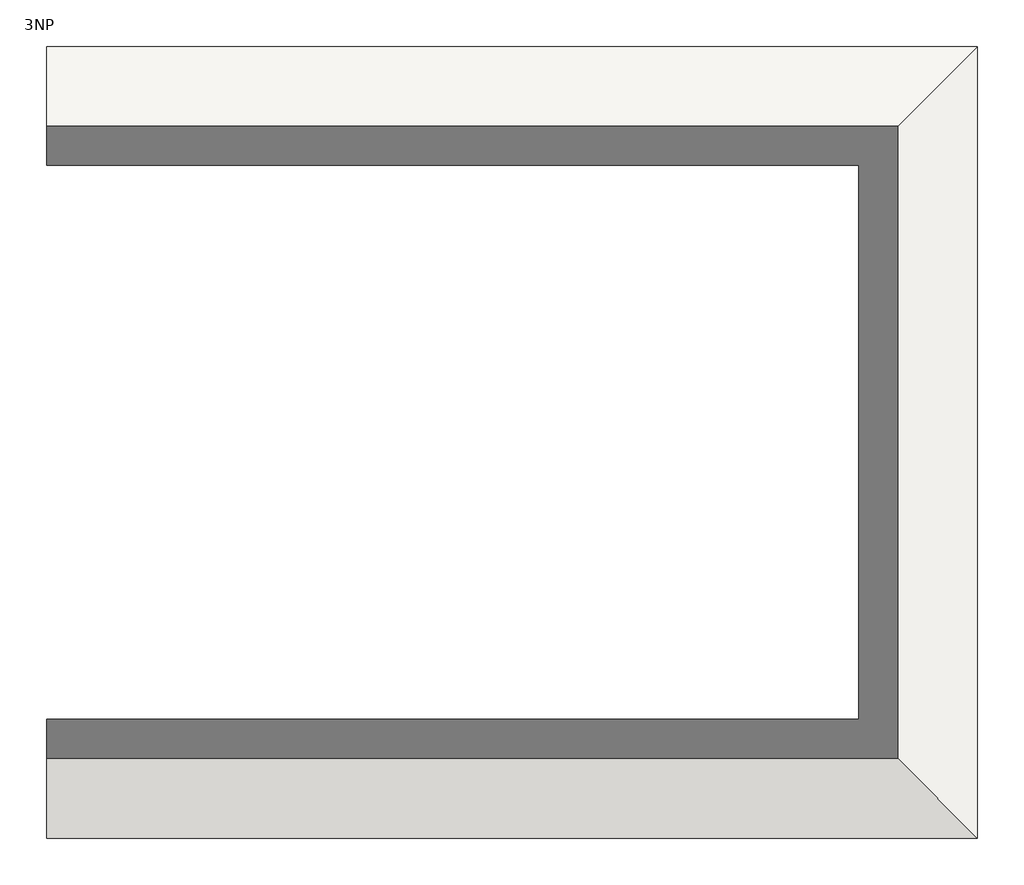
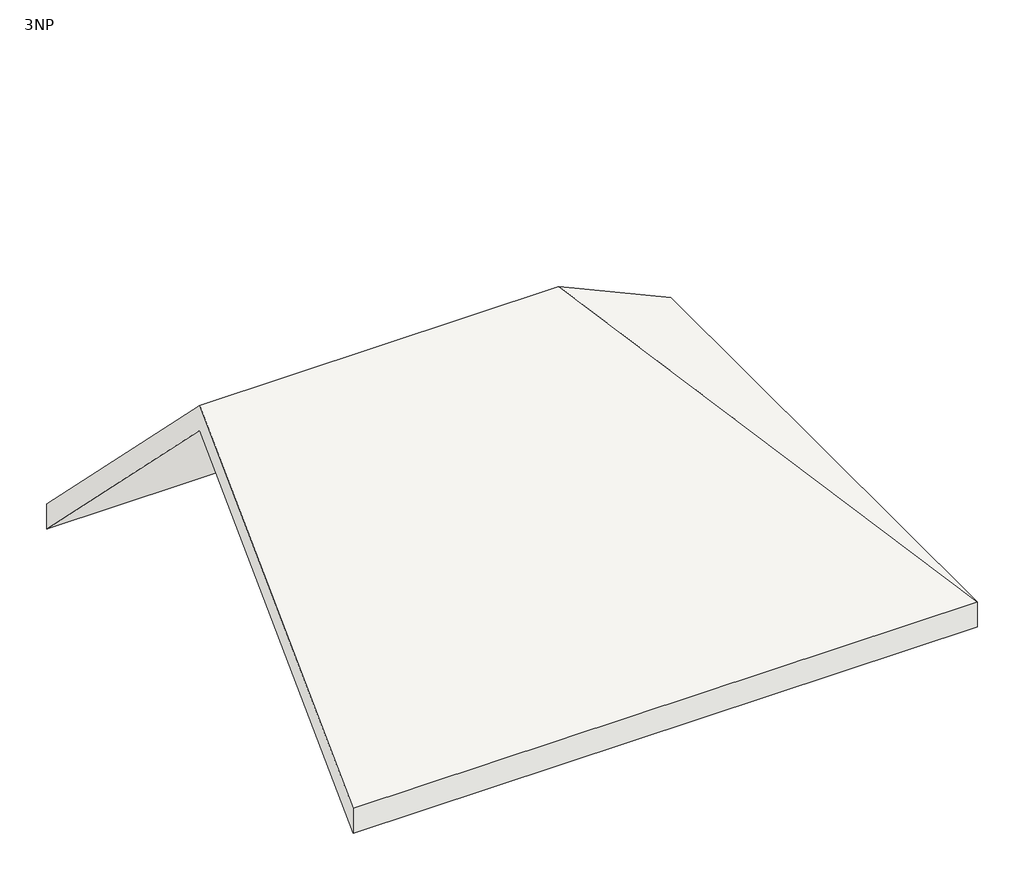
# One storey: 1 roof.
"""IFC4 building model written with IfcOpenShell, lengths in millimetres."""

import ifcopenshell
import ifcopenshell.guid

model = None  # the IFC model being written
_history = None  # IfcOwnerHistory: only IFC2X3 demands one
_inside = {}  # id of a spatial element -> (the spatial element, [elements in it])
_under = {}  # id of a project, library or spatial element -> (it, [spatial elements below it])
_declared = {}  # id of a project -> (the project, [libraries it declares])
_typed = {}  # id of a type object -> (the type object, [elements of that type])
_made_of = {}  # id of a material, layer set ... -> (it, [elements and type objects made of it])


def new_model(schema):
    """Start an empty IFC model of exactly this schema.

    Asked for "IFC4X3", IfcOpenShell would pick the latest addendum, in which some entities
    have other attributes; the version numbers below select the first issue.
    IFC2X3 requires an IfcOwnerHistory on every rooted entity: one is made here for all.
    """
    global model, _history
    if schema == "IFC4X3":
        model = ifcopenshell.file(schema_version=(4, 3, 0, 0))
    else:
        model = ifcopenshell.file(schema=schema)
    _inside.clear()
    _under.clear()
    _declared.clear()
    _typed.clear()
    _made_of.clear()
    _history = None
    if model.schema == "IFC2X3":
        org = make("IfcOrganization", Name="unknown")
        user = make(
            "IfcPersonAndOrganization",
            ThePerson=make("IfcPerson", FamilyName="unknown"),
            TheOrganization=org,
        )
        app = make(
            "IfcApplication",
            ApplicationDeveloper=org,
            Version="unknown",
            ApplicationFullName="unknown",
            ApplicationIdentifier="unknown",
        )
        _history = make(
            "IfcOwnerHistory",
            OwningUser=user,
            OwningApplication=app,
            ChangeAction="ADDED",
            CreationDate=0,
        )
    return model


def make(cls, **values):
    """One entity of the class cls with the attributes given. An attribute that is None is left unset."""
    return model.create_entity(
        cls, **{name: value for name, value in values.items() if value is not None}
    )


def rooted(cls, **values):
    """An entity with a GlobalId (a new one), such as an element, a storey or a relation."""
    return make(cls, GlobalId=ifcopenshell.guid.new(), OwnerHistory=_history, **values)


def si_unit(unit_type, name, prefix=None):
    """IfcSIUnit, for example si_unit("LENGTHUNIT", "METRE", prefix="MILLI")."""
    return make("IfcSIUnit", UnitType=unit_type, Prefix=prefix, Name=name)


def assignment(units):
    """IfcUnitAssignment: the units of a project."""
    return None if units is None else make("IfcUnitAssignment", Units=units)


def point(xyz):
    """IfcCartesianPoint."""
    return None if xyz is None else make("IfcCartesianPoint", Coordinates=xyz)


def direction(xyz):
    """IfcDirection."""
    return None if xyz is None else make("IfcDirection", DirectionRatios=xyz)


def frame(location, z_axis=None, x_axis=None):
    """IfcAxis2Placement3D, a coordinate frame: its origin and axes. An axis left out is left unset."""
    return make(
        "IfcAxis2Placement3D",
        Location=point(location),
        Axis=direction(z_axis),
        RefDirection=direction(x_axis),
    )


def origin():
    """The frame at (0, 0, 0) with its axes left unset."""
    return frame((0.0, 0.0, 0.0))


def place(relative_to, where):
    """IfcLocalPlacement: puts the frame where relative to a parent placement (None: the world)."""
    return make(
        "IfcLocalPlacement", PlacementRelTo=relative_to, RelativePlacement=where
    )


def context(
    kind, dimensions, precision=None, world=None, true_north=None, identifier=None
):
    """IfcGeometricRepresentationContext, for example the 3D "Model" context."""
    return make(
        "IfcGeometricRepresentationContext",
        ContextIdentifier=identifier,
        ContextType=kind,
        CoordinateSpaceDimension=dimensions,
        Precision=precision,
        WorldCoordinateSystem=world,
        TrueNorth=true_north,
    )


def project(units=None, contexts=None):
    """IfcProject with its units and contexts."""
    return rooted(
        "IfcProject",
        Name="project",
        RepresentationContexts=contexts,
        UnitsInContext=assignment(units),
    )


def spatial(cls, under=None, at=None, **own):
    """A site, building, storey or space (cls), placed at a placement, below another one or the project."""
    s = rooted(cls, ObjectPlacement=at, **own)
    if under is not None:
        _under.setdefault(under.id(), (under, []))[1].append(s)
    return s


def faces_of(points, faces, orient=None, outer=None):
    """IfcFace entities. A face is a list of loops; a loop is a list of indices into points, from 0.

    orient and outer hold one flag for each loop. By default every Orientation is true, the
    first loop of a face is its IfcFaceOuterBound and the others are IfcFaceBound.
    """
    made = []
    for i, loops in enumerate(faces):
        bounds = []
        for j, loop in enumerate(loops):
            is_outer = j == 0 if outer is None else outer[i][j]
            bounds.append(
                make(
                    "IfcFaceOuterBound" if is_outer else "IfcFaceBound",
                    Bound=make("IfcPolyLoop", Polygon=[points[k] for k in loop]),
                    Orientation=True if orient is None else orient[i][j],
                )
            )
        made.append(make("IfcFace", Bounds=bounds))
    return made


def faceted_brep(points, faces, orient=None, outer=None, voids=None):
    """IfcFacetedBrep: a solid bounded by flat faces; with voids (closed shells), ...WithVoids."""
    shared = [point(p) for p in points]
    hull = make("IfcClosedShell", CfsFaces=faces_of(shared, faces, orient, outer))
    if voids is None:
        return make("IfcFacetedBrep", Outer=hull)
    return make(
        "IfcFacetedBrepWithVoids",
        Outer=hull,
        Voids=[
            make(cls, CfsFaces=faces_of(shared, fs, o, b)) for cls, fs, o, b in voids
        ],
    )


def shape(context_of_items, identifier, shape_type, items):
    """IfcShapeRepresentation: the items that make up one representation, for example the "Body"."""
    return make(
        "IfcShapeRepresentation",
        ContextOfItems=context_of_items,
        RepresentationIdentifier=identifier,
        RepresentationType=shape_type,
        Items=items,
    )


def made_of(thing, what):
    """Note that an element or type object is made of a material, layer set ...; save() writes the relation."""
    if what is not None:
        _made_of.setdefault(what.id(), (what, []))[1].append(thing)
    return thing


def element(
    cls,
    number,
    at=None,
    inside=None,
    cuts=None,
    type_object=None,
    material=None,
    context=None,
    identifier="Body",
    shape_type=None,
    held_by="IfcProductDefinitionShape",
    body=None,
    shapes=None,
    **own,
):
    """One element of the class cls, such as IfcWall. Its Tag is "e" and its number.

    at: its placement. inside: the storey or other place that contains it. cuts: it is an
    opening in that element (IfcRelVoidsElement). A single representation is given by context,
    identifier, shape_type and body (its items); several are given by shapes. held_by: the class
    of the entity that holds the representations. save() writes the other relations.
    """
    e = rooted(cls, Tag="e%d" % number, ObjectPlacement=at, **own)
    if body is not None:
        shapes = [shape(context, identifier, shape_type, body)]
    if shapes is not None:
        e.Representation = make(held_by, Representations=shapes)
    if inside is not None:
        _inside.setdefault(inside.id(), (inside, []))[1].append(e)
    if cuts is not None:
        rooted(
            "IfcRelVoidsElement", RelatingBuildingElement=cuts, RelatedOpeningElement=e
        )
    if type_object is not None:
        _typed.setdefault(type_object.id(), (type_object, []))[1].append(e)
    return made_of(e, material)


def aggregate(whole, parts):
    """IfcRelAggregates: a whole, such as a stair, and the parts it consists of."""
    return rooted("IfcRelAggregates", RelatingObject=whole, RelatedObjects=parts)


def save(model, path):
    """Write the relations noted so far, then the file.

    IfcRelAggregates (storeys below a building ...), IfcRelContainedInSpatialStructure (elements
    in a storey), IfcRelDefinesByType, IfcRelAssociatesMaterial and IfcRelDeclares: one each for
    every whole, place, type object, material and project.
    """
    for whole, parts in _under.values():
        aggregate(whole, parts)
    for where, things in _inside.values():
        rooted(
            "IfcRelContainedInSpatialStructure",
            RelatedElements=things,
            RelatingStructure=where,
        )
    for kind, things in _typed.values():
        rooted("IfcRelDefinesByType", RelatedObjects=things, RelatingType=kind)
    for what, things in _made_of.values():
        rooted("IfcRelAssociatesMaterial", RelatedObjects=things, RelatingMaterial=what)
    for by, libraries in _declared.values():
        rooted("IfcRelDeclares", RelatingContext=by, RelatedDefinitions=libraries)
    model.write(path)


model = new_model("IFC4")

# Units and contexts
model_context = context("Model", 3, world=origin())
ifc_project = project(units=[si_unit("LENGTHUNIT", "METRE", prefix="MILLI")], contexts=[model_context])

# Site, building, storey
site = spatial("IfcSite", under=ifc_project)
building = spatial("IfcBuilding", under=site)
storey = spatial("IfcBuildingStorey", under=building, Name="3NP", Elevation=8000.0)

# Roof
placement = place(None, origin())
element("IfcRoof", 1, ObjectType="Generic - 400mm", at=placement, inside=storey, context=model_context, shape_type="Brep", body=[
    faceted_brep([(28776.5997597, 13835.2898989, 13175.0), (28776.5997597, 19510.2898989, 7500.0), (42126.5997597, 19510.2898989, 7500.0), (36451.5997597, 13835.2898989, 13175.0), (42126.5997597, 8160.2898989, 7500.0), (28776.5997597, 8160.2898989, 7500.0), (28776.5997597, 19510.2898989, 8065.6854249), (28776.5997597, 13835.2898989, 13740.6854249), (36451.5997597, 13835.2898989, 13740.6854249), (42126.5997597, 19510.2898989, 8065.6854249), (42126.5997597, 8160.2898989, 8065.6854249), (28776.5997597, 8160.2898989, 8065.6854249)], [[[0, 1, 2, 3]], [[4, 3, 2]], [[5, 0, 3, 4]], [[6, 7, 8, 9]], [[10, 9, 8]], [[11, 10, 8, 7]], [[4, 10, 11, 5]], [[2, 9, 10, 4]], [[1, 6, 9, 2]], [[11, 7, 6, 1, 0, 5]]]),
])

save(model, "model.ifc")
